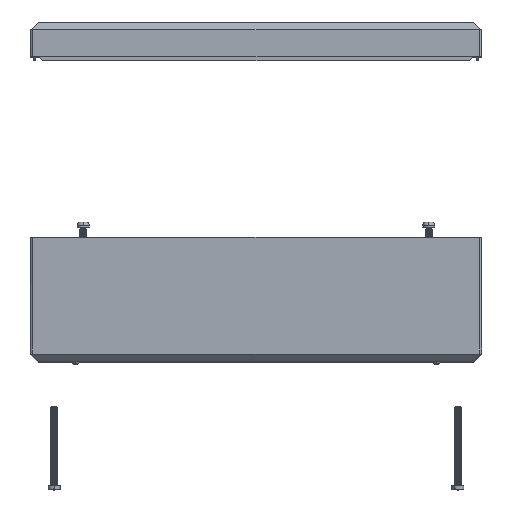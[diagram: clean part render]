
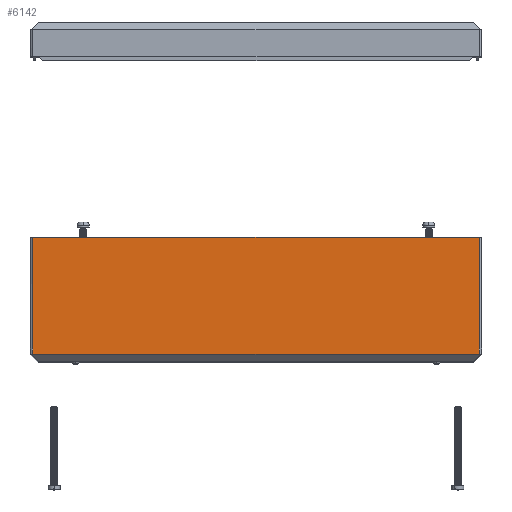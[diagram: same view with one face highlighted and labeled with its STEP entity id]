
A CAD part, top view. The second image highlights one B-rep face of the part: STEP entity #6142.
In plain terms, the highlighted planar face has unit normal (0, 0, 1).
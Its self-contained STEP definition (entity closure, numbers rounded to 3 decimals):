
#511 = CARTESIAN_POINT ( 'NONE',  ( -100., 0., 56. ) ) ;
#1318 = EDGE_CURVE ( 'NONE', #9394, #6112, #7065, .T. ) ;
#1359 = CARTESIAN_POINT ( 'NONE',  ( 99., -55.2, 56. ) ) ;
#1390 = FACE_OUTER_BOUND ( 'NONE', #7470, .T. ) ;
#1525 = DIRECTION ( 'NONE',  ( 0., 1., 0. ) ) ;
#2182 = VECTOR ( 'NONE', #9058, 1000. ) ;
#2661 = ORIENTED_EDGE ( 'NONE', *, *, #2960, .F. ) ;
#2960 = EDGE_CURVE ( 'NONE', #15840, #6112, #6494, .T. ) ;
#3786 = PLANE ( 'NONE',  #13683 ) ;
#5127 = DIRECTION ( 'NONE',  ( 1., 0., 0. ) ) ;
#5816 = CARTESIAN_POINT ( 'NONE',  ( 99., -51.7, 56. ) ) ;
#6112 = VERTEX_POINT ( 'NONE', #7600 ) ;
#6142 = ADVANCED_FACE ( 'NONE', ( #1390 ), #3786, .T. ) ;
#6494 = LINE ( 'NONE', #511, #2182 ) ;
#6845 = DIRECTION ( 'NONE',  ( 1., 0., 0. ) ) ;
#7065 = LINE ( 'NONE', #1359, #13936 ) ;
#7470 = EDGE_LOOP ( 'NONE', ( #2661, #12095, #9182, #8015 ) ) ;
#7600 = CARTESIAN_POINT ( 'NONE',  ( 99., 0., 56. ) ) ;
#7888 = CARTESIAN_POINT ( 'NONE',  ( -99., -55.2, 56. ) ) ;
#8015 = ORIENTED_EDGE ( 'NONE', *, *, #1318, .T. ) ;
#8426 = CARTESIAN_POINT ( 'NONE',  ( -99., -51.7, 56. ) ) ;
#9058 = DIRECTION ( 'NONE',  ( 1., 0., 0. ) ) ;
#9182 = ORIENTED_EDGE ( 'NONE', *, *, #14116, .T. ) ;
#9244 = DIRECTION ( 'NONE',  ( 0., -1., 0. ) ) ;
#9394 = VERTEX_POINT ( 'NONE', #5816 ) ;
#9435 = CARTESIAN_POINT ( 'NONE',  ( 100., -51.7, 56. ) ) ;
#9635 = VECTOR ( 'NONE', #9244, 1000. ) ;
#12095 = ORIENTED_EDGE ( 'NONE', *, *, #12919, .T. ) ;
#12422 = VECTOR ( 'NONE', #6845, 1000. ) ;
#12661 = LINE ( 'NONE', #7888, #9635 ) ;
#12839 = DIRECTION ( 'NONE',  ( 0., 0., 1. ) ) ;
#12919 = EDGE_CURVE ( 'NONE', #15840, #14241, #12661, .T. ) ;
#13580 = CARTESIAN_POINT ( 'NONE',  ( -99., 0., 56. ) ) ;
#13683 = AXIS2_PLACEMENT_3D ( 'NONE', #15349, #12839, #5127 ) ;
#13936 = VECTOR ( 'NONE', #1525, 1000. ) ;
#14116 = EDGE_CURVE ( 'NONE', #14241, #9394, #15828, .T. ) ;
#14241 = VERTEX_POINT ( 'NONE', #8426 ) ;
#15349 = CARTESIAN_POINT ( 'NONE',  ( -100., -55.2, 56. ) ) ;
#15828 = LINE ( 'NONE', #9435, #12422 ) ;
#15840 = VERTEX_POINT ( 'NONE', #13580 ) ;
